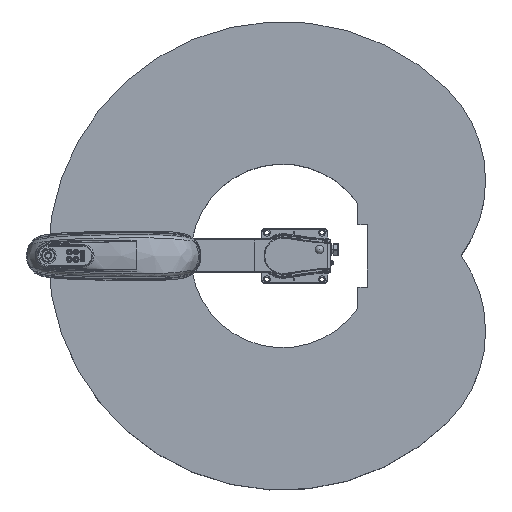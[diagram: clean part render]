
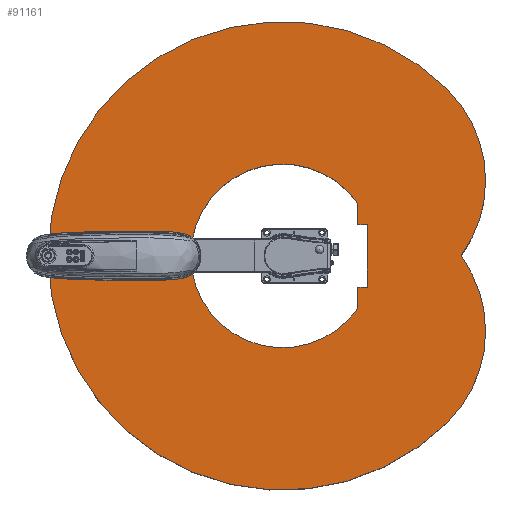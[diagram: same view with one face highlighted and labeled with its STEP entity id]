
A CAD part, top view. The second image highlights one B-rep face of the part: STEP entity #91161.
In plain terms, the highlighted planar face has unit normal (0, 0, 1) as drawn and (0, 1, 0) by its records, which use the part's own axes.
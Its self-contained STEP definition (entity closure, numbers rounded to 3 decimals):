
#6421 = EDGE_CURVE ( 'NONE', #128455, #128447, #64352, .T. ) ;
#6426 = EDGE_CURVE ( 'NONE', #128457, #128463, #64331, .T. ) ;
#6433 = EDGE_CURVE ( 'NONE', #128465, #128467, #64336, .T. ) ;
#6435 = EDGE_CURVE ( 'NONE', #128467, #128457, #64305, .T. ) ;
#6436 = EDGE_CURVE ( 'NONE', #128463, #128465, #64307, .T. ) ;
#6438 = EDGE_CURVE ( 'NONE', #128473, #128453, #86182, .T. ) ;
#6440 = EDGE_CURVE ( 'NONE', #128475, #128473, #86224, .T. ) ;
#6442 = EDGE_CURVE ( 'NONE', #128447, #128475, #64289, .T. ) ;
#6444 = EDGE_CURVE ( 'NONE', #128477, #128455, #86259, .T. ) ;
#6447 = EDGE_CURVE ( 'NONE', #128481, #128477, #86284, .T. ) ;
#6448 = EDGE_CURVE ( 'NONE', #128453, #128481, #86278, .T. ) ;
#64271 = VECTOR ( 'NONE', #86288, 1000. ) ;
#64276 = VECTOR ( 'NONE', #86263, 1000. ) ;
#64280 = AXIS2_PLACEMENT_3D ( 'NONE', #86243, #86245, #86247 ) ;
#64282 = VECTOR ( 'NONE', #86292, 1000. ) ;
#64286 = VECTOR ( 'NONE', #86228, 1000. ) ;
#64289 = CIRCLE ( 'NONE', #64280, 323.228 ) ;
#64293 = VECTOR ( 'NONE', #86186, 1000. ) ;
#64297 = AXIS2_PLACEMENT_3D ( 'NONE', #86166, #86168, #86170 ) ;
#64305 = CIRCLE ( 'NONE', #64316, 825. ) ;
#64307 = CIRCLE ( 'NONE', #64297, 450. ) ;
#64311 = AXIS2_PLACEMENT_3D ( 'NONE', #86139, #86141, #86143 ) ;
#64316 = AXIS2_PLACEMENT_3D ( 'NONE', #86157, #86159, #86161 ) ;
#64331 = CIRCLE ( 'NONE', #64342, 825. ) ;
#64336 = CIRCLE ( 'NONE', #64311, 450. ) ;
#64342 = AXIS2_PLACEMENT_3D ( 'NONE', #85909, #85911, #85913 ) ;
#64352 = CIRCLE ( 'NONE', #64356, 323.228 ) ;
#64356 = AXIS2_PLACEMENT_3D ( 'NONE', #85863, #85865, #85867 ) ;
#77194 = CARTESIAN_POINT ( 'NONE',  ( 0., 400., -323.228 ) ) ;
#77209 = CARTESIAN_POINT ( 'NONE',  ( 0., 400., -825. ) ) ;
#77212 = CARTESIAN_POINT ( 'NONE',  ( -110., 400., 299. ) ) ;
#77216 = CARTESIAN_POINT ( 'NONE',  ( 184.835, 400., 265.165 ) ) ;
#77225 = CARTESIAN_POINT ( 'NONE',  ( 583.363, 400., 583.363 ) ) ;
#77231 = CARTESIAN_POINT ( 'NONE',  ( -583.363, 400., 583.363 ) ) ;
#77236 = CARTESIAN_POINT ( 'NONE',  ( 0., 400., 628.741 ) ) ;
#77238 = CARTESIAN_POINT ( 'NONE',  ( -110., 400., 265.165 ) ) ;
#77257 = CARTESIAN_POINT ( 'NONE',  ( -184.835, 400., 265.165 ) ) ;
#77263 = CARTESIAN_POINT ( 'NONE',  ( 110., 400., 265.165 ) ) ;
#77272 = CARTESIAN_POINT ( 'NONE',  ( 110., 400., 299. ) ) ;
#85863 = CARTESIAN_POINT ( 'NONE',  ( 0., 400., 0. ) ) ;
#85865 = DIRECTION ( 'NONE',  ( 0., 1., 0. ) ) ;
#85867 = DIRECTION ( 'NONE',  ( 0., 0., 1. ) ) ;
#85909 = CARTESIAN_POINT ( 'NONE',  ( 0., 400., 0. ) ) ;
#85911 = DIRECTION ( 'NONE',  ( 0., 1., 0. ) ) ;
#85913 = DIRECTION ( 'NONE',  ( 0., 0., 1. ) ) ;
#86139 = CARTESIAN_POINT ( 'NONE',  ( 265.165, 400., 265.165 ) ) ;
#86141 = DIRECTION ( 'NONE',  ( 0., 1., 0. ) ) ;
#86143 = DIRECTION ( 'NONE',  ( 0., 0., 1. ) ) ;
#86157 = CARTESIAN_POINT ( 'NONE',  ( 0., 400., 0. ) ) ;
#86159 = DIRECTION ( 'NONE',  ( 0., 1., 0. ) ) ;
#86161 = DIRECTION ( 'NONE',  ( 0., 0., 1. ) ) ;
#86166 = CARTESIAN_POINT ( 'NONE',  ( -265.165, 400., 265.165 ) ) ;
#86168 = DIRECTION ( 'NONE',  ( 0., 1., 0. ) ) ;
#86170 = DIRECTION ( 'NONE',  ( 0., 0., 1. ) ) ;
#86182 = LINE ( 'NONE', #86184, #64293 ) ;
#86184 = CARTESIAN_POINT ( 'NONE',  ( -110., 400., 265.165 ) ) ;
#86186 = DIRECTION ( 'NONE',  ( 0., 0., 1. ) ) ;
#86224 = LINE ( 'NONE', #86226, #64286 ) ;
#86226 = CARTESIAN_POINT ( 'NONE',  ( -110., 400., 265.165 ) ) ;
#86228 = DIRECTION ( 'NONE',  ( 1., 0., 0. ) ) ;
#86243 = CARTESIAN_POINT ( 'NONE',  ( 0., 400., 0. ) ) ;
#86245 = DIRECTION ( 'NONE',  ( 0., 1., 0. ) ) ;
#86247 = DIRECTION ( 'NONE',  ( 0., 0., 1. ) ) ;
#86259 = LINE ( 'NONE', #86261, #64276 ) ;
#86261 = CARTESIAN_POINT ( 'NONE',  ( 184.835, 400., 265.165 ) ) ;
#86263 = DIRECTION ( 'NONE',  ( 1., 0., 0. ) ) ;
#86271 = CARTESIAN_POINT ( 'NONE',  ( -110., 400., 299. ) ) ;
#86278 = LINE ( 'NONE', #86271, #64282 ) ;
#86284 = LINE ( 'NONE', #86286, #64271 ) ;
#86286 = CARTESIAN_POINT ( 'NONE',  ( 110., 400., 265.165 ) ) ;
#86288 = DIRECTION ( 'NONE',  ( 0., 0., -1. ) ) ;
#86292 = DIRECTION ( 'NONE',  ( 1., 0., 0. ) ) ;
#91161 = ADVANCED_FACE ( 'NONE', ( #190460, #190442 ), #190468, .T. ) ;
#127891 = EDGE_LOOP ( 'NONE', ( #182222, #182218, #182214, #182211, #182207, #182204, #182198 ) ) ;
#127960 = EDGE_LOOP ( 'NONE', ( #182238, #182235, #182228, #182225 ) ) ;
#128447 = VERTEX_POINT ( 'NONE', #77194 ) ;
#128453 = VERTEX_POINT ( 'NONE', #77212 ) ;
#128455 = VERTEX_POINT ( 'NONE', #77216 ) ;
#128457 = VERTEX_POINT ( 'NONE', #77209 ) ;
#128463 = VERTEX_POINT ( 'NONE', #77231 ) ;
#128465 = VERTEX_POINT ( 'NONE', #77236 ) ;
#128467 = VERTEX_POINT ( 'NONE', #77225 ) ;
#128473 = VERTEX_POINT ( 'NONE', #77238 ) ;
#128475 = VERTEX_POINT ( 'NONE', #77257 ) ;
#128477 = VERTEX_POINT ( 'NONE', #77263 ) ;
#128481 = VERTEX_POINT ( 'NONE', #77272 ) ;
#157628 = AXIS2_PLACEMENT_3D ( 'NONE', #190458, #190449, #190473 ) ;
#182198 = ORIENTED_EDGE ( 'NONE', *, *, #6448, .F. ) ;
#182204 = ORIENTED_EDGE ( 'NONE', *, *, #6447, .F. ) ;
#182207 = ORIENTED_EDGE ( 'NONE', *, *, #6444, .F. ) ;
#182211 = ORIENTED_EDGE ( 'NONE', *, *, #6421, .F. ) ;
#182214 = ORIENTED_EDGE ( 'NONE', *, *, #6442, .F. ) ;
#182218 = ORIENTED_EDGE ( 'NONE', *, *, #6440, .F. ) ;
#182222 = ORIENTED_EDGE ( 'NONE', *, *, #6438, .F. ) ;
#182225 = ORIENTED_EDGE ( 'NONE', *, *, #6436, .T. ) ;
#182228 = ORIENTED_EDGE ( 'NONE', *, *, #6426, .T. ) ;
#182235 = ORIENTED_EDGE ( 'NONE', *, *, #6435, .T. ) ;
#182238 = ORIENTED_EDGE ( 'NONE', *, *, #6433, .T. ) ;
#190442 = FACE_BOUND ( 'NONE', #127891, .T. ) ;
#190449 = DIRECTION ( 'NONE',  ( 0., 1., 0. ) ) ;
#190458 = CARTESIAN_POINT ( 'NONE',  ( 132.583, 400., 132.583 ) ) ;
#190460 = FACE_OUTER_BOUND ( 'NONE', #127960, .T. ) ;
#190468 = PLANE ( 'NONE',  #157628 ) ;
#190473 = DIRECTION ( 'NONE',  ( 0., 0., 1. ) ) ;
